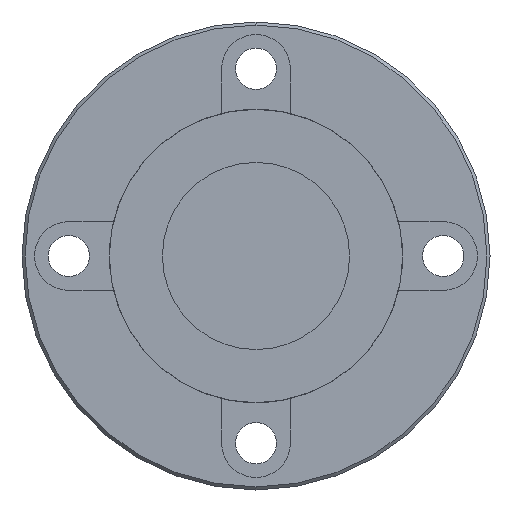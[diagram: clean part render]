
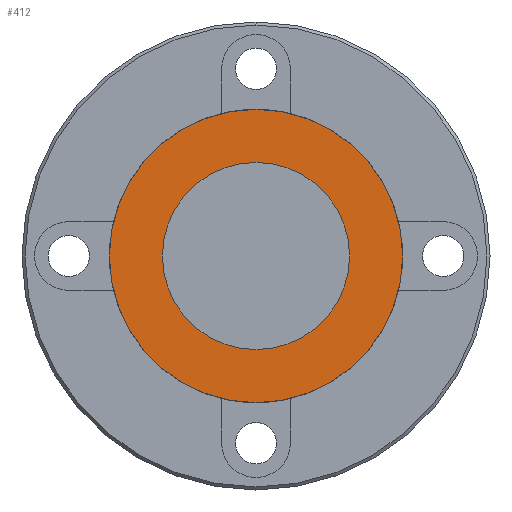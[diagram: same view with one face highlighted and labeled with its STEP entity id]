
A CAD part, left-side view. The second image highlights one B-rep face of the part: STEP entity #412.
In plain terms, the highlighted planar face has unit normal (-1, 0, 0) as drawn and (0, 0, 1) by its records, which use the part's own axes.
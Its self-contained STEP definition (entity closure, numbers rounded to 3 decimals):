
#26 = VERTEX_POINT ( 'NONE', #979 ) ;
#112 = FACE_OUTER_BOUND ( 'NONE', #502, .T. ) ;
#212 = EDGE_CURVE ( 'NONE', #26, #334, #814, .T. ) ;
#229 = CIRCLE ( 'NONE', #311, 15. ) ;
#311 = AXIS2_PLACEMENT_3D ( 'NONE', #1263, #1455, #606 ) ;
#334 = VERTEX_POINT ( 'NONE', #506 ) ;
#412 = ADVANCED_FACE ( 'NONE', ( #1856, #112 ), #2655, .F. ) ;
#426 = DIRECTION ( 'NONE',  ( 0., 0., -1. ) ) ;
#451 = AXIS2_PLACEMENT_3D ( 'NONE', #1486, #426, #1291 ) ;
#466 = EDGE_CURVE ( 'NONE', #2295, #1125, #229, .T. ) ;
#477 = CARTESIAN_POINT ( 'NONE',  ( 0., 0., 8.5 ) ) ;
#502 = EDGE_LOOP ( 'NONE', ( #636, #511 ) ) ;
#506 = CARTESIAN_POINT ( 'NONE',  ( 23.5, 0., 8.5 ) ) ;
#511 = ORIENTED_EDGE ( 'NONE', *, *, #578, .F. ) ;
#578 = EDGE_CURVE ( 'NONE', #334, #26, #1666, .T. ) ;
#606 = DIRECTION ( 'NONE',  ( -1., 0., 0. ) ) ;
#636 = ORIENTED_EDGE ( 'NONE', *, *, #212, .F. ) ;
#814 = CIRCLE ( 'NONE', #2029, 23.5 ) ;
#896 = CIRCLE ( 'NONE', #1836, 15. ) ;
#972 = DIRECTION ( 'NONE',  ( -1., 0., 0. ) ) ;
#979 = CARTESIAN_POINT ( 'NONE',  ( -23.5, 0., 8.5 ) ) ;
#1040 = ORIENTED_EDGE ( 'NONE', *, *, #2406, .T. ) ;
#1125 = VERTEX_POINT ( 'NONE', #1230 ) ;
#1134 = DIRECTION ( 'NONE',  ( -1., 0., 0. ) ) ;
#1230 = CARTESIAN_POINT ( 'NONE',  ( 15., 0., 8.5 ) ) ;
#1263 = CARTESIAN_POINT ( 'NONE',  ( 0., 0., 8.5 ) ) ;
#1291 = DIRECTION ( 'NONE',  ( -1., 0., 0. ) ) ;
#1455 = DIRECTION ( 'NONE',  ( 0., 0., -1. ) ) ;
#1486 = CARTESIAN_POINT ( 'NONE',  ( 0., 0., 8.5 ) ) ;
#1556 = CARTESIAN_POINT ( 'NONE',  ( 0., 0., 8.5 ) ) ;
#1587 = DIRECTION ( 'NONE',  ( 0., 0., -1. ) ) ;
#1639 = CARTESIAN_POINT ( 'NONE',  ( 0., 37.5, 8.5 ) ) ;
#1666 = CIRCLE ( 'NONE', #451, 23.5 ) ;
#1785 = ORIENTED_EDGE ( 'NONE', *, *, #466, .T. ) ;
#1836 = AXIS2_PLACEMENT_3D ( 'NONE', #477, #1587, #1134 ) ;
#1856 = FACE_BOUND ( 'NONE', #2662, .T. ) ;
#2029 = AXIS2_PLACEMENT_3D ( 'NONE', #1556, #2628, #2567 ) ;
#2171 = CARTESIAN_POINT ( 'NONE',  ( -15., 0., 8.5 ) ) ;
#2295 = VERTEX_POINT ( 'NONE', #2171 ) ;
#2406 = EDGE_CURVE ( 'NONE', #1125, #2295, #896, .T. ) ;
#2473 = AXIS2_PLACEMENT_3D ( 'NONE', #1639, #2709, #972 ) ;
#2567 = DIRECTION ( 'NONE',  ( -1., 0., 0. ) ) ;
#2628 = DIRECTION ( 'NONE',  ( 0., 0., -1. ) ) ;
#2655 = PLANE ( 'NONE',  #2473 ) ;
#2662 = EDGE_LOOP ( 'NONE', ( #1785, #1040 ) ) ;
#2709 = DIRECTION ( 'NONE',  ( 0., 0., -1. ) ) ;
